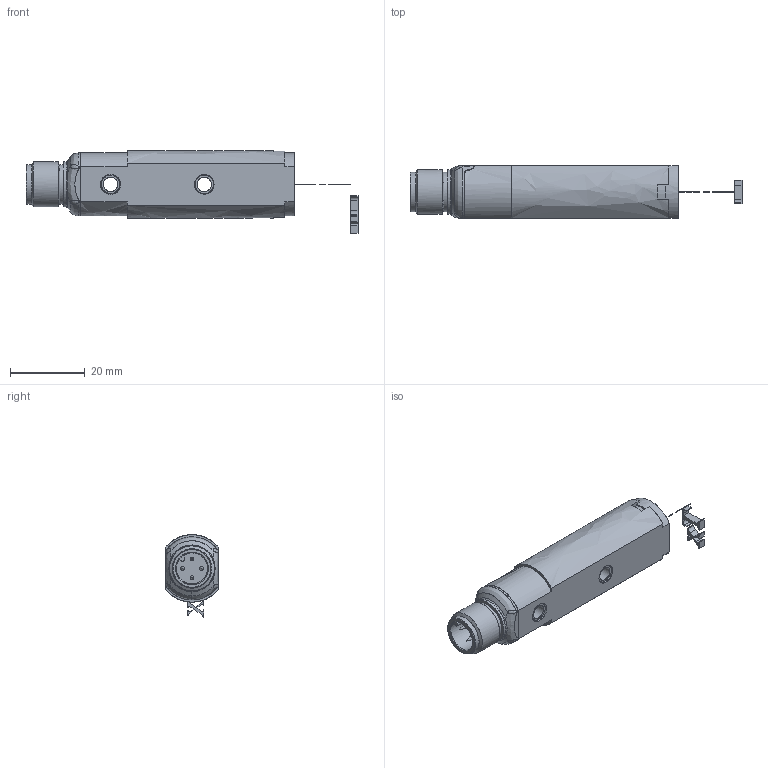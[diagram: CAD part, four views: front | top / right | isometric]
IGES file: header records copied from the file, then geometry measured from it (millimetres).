
Global section: file name: D:\TMP\DSD-0039.igs; preprocessor: I-DEAS 3D IGES Translator 11; date: 20060607.090154; units: millimetre
Bounding box: 88.55 x 14 x 22.05 mm (x, y, z)
Surface area: 5086.5 mm2
Topology: 4 solids, 4 shells, 217 faces, 1103 edges, 994 vertices
Faces by surface type: bspline 217
